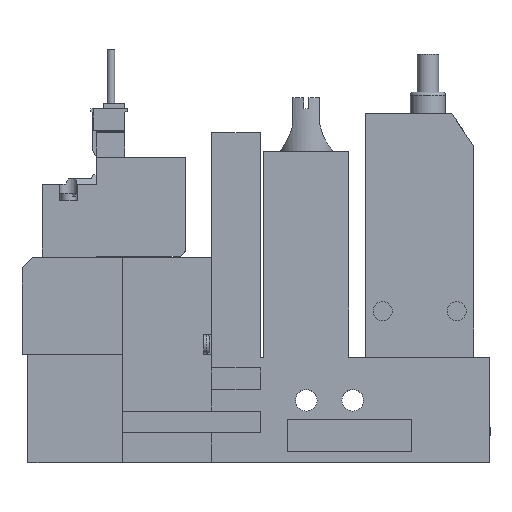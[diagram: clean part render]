
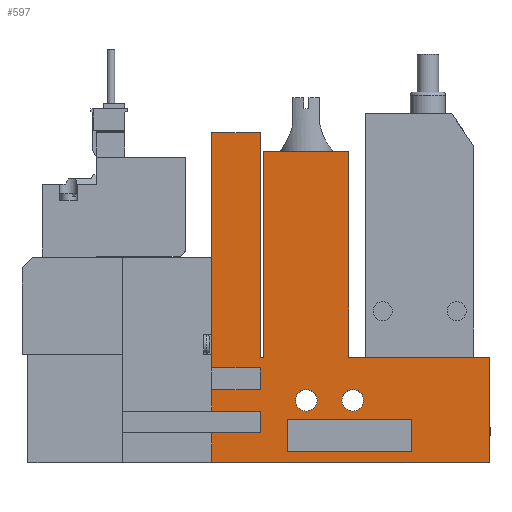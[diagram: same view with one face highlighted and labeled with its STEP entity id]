
A CAD part, top view. The second image highlights one B-rep face of the part: STEP entity #597.
In plain terms, the highlighted planar face has unit normal (0, 0, 1).
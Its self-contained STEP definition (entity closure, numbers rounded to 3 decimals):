
#597=ADVANCED_FACE('',(#1262,#1263,#1264,#1265),#1266,.T.);
#1262=FACE_OUTER_BOUND('',#2035,.T.);
#1263=FACE_BOUND('',#2036,.T.);
#1264=FACE_BOUND('',#2037,.T.);
#1265=FACE_BOUND('',#2038,.T.);
#1266=PLANE('',#2039);
#2035=EDGE_LOOP('',(#4427,#4428,#4429,#4430,#4431,#4432,#4433,#4434,#4435,#4436,#4437,#4438,#4439,#4440,#4441,#4442,#4443,#4444));
#2036=EDGE_LOOP('',(#4445,#4446,#4447,#4448));
#2037=EDGE_LOOP('',(#4449));
#2038=EDGE_LOOP('',(#4450));
#2039=AXIS2_PLACEMENT_3D('',#4451,#4452,#4453);
#4427=ORIENTED_EDGE('',*,*,#5822,.T.);
#4428=ORIENTED_EDGE('',*,*,#5823,.T.);
#4429=ORIENTED_EDGE('',*,*,#5799,.T.);
#4430=ORIENTED_EDGE('',*,*,#5813,.T.);
#4431=ORIENTED_EDGE('',*,*,#5824,.T.);
#4432=ORIENTED_EDGE('',*,*,#5825,.T.);
#4433=ORIENTED_EDGE('',*,*,#5826,.T.);
#4434=ORIENTED_EDGE('',*,*,#5827,.T.);
#4435=ORIENTED_EDGE('',*,*,#5828,.T.);
#4436=ORIENTED_EDGE('',*,*,#5829,.T.);
#4437=ORIENTED_EDGE('',*,*,#5830,.T.);
#4438=ORIENTED_EDGE('',*,*,#5786,.T.);
#4439=ORIENTED_EDGE('',*,*,#5831,.T.);
#4440=ORIENTED_EDGE('',*,*,#5832,.T.);
#4441=ORIENTED_EDGE('',*,*,#5806,.T.);
#4442=ORIENTED_EDGE('',*,*,#5833,.T.);
#4443=ORIENTED_EDGE('',*,*,#5834,.T.);
#4444=ORIENTED_EDGE('',*,*,#5835,.T.);
#4445=ORIENTED_EDGE('',*,*,#5836,.T.);
#4446=ORIENTED_EDGE('',*,*,#5837,.T.);
#4447=ORIENTED_EDGE('',*,*,#5838,.T.);
#4448=ORIENTED_EDGE('',*,*,#5839,.T.);
#4449=ORIENTED_EDGE('',*,*,#5815,.T.);
#4450=ORIENTED_EDGE('',*,*,#5821,.T.);
#4451=CARTESIAN_POINT('',(0.0,0.0,10.0));
#4452=DIRECTION('',(0.0,0.0,1.0));
#4453=DIRECTION('',(1.0,0.0,0.0));
#5786=EDGE_CURVE('',#7171,#7169,#7172,.T.);
#5799=EDGE_CURVE('',#7192,#7194,#7196,.T.);
#5806=EDGE_CURVE('',#7210,#7208,#7211,.T.);
#5813=EDGE_CURVE('',#7194,#7220,#7222,.T.);
#5815=EDGE_CURVE('',#7225,#7225,#7226,.T.);
#5821=EDGE_CURVE('',#7237,#7237,#7238,.T.);
#5822=EDGE_CURVE('',#7239,#7240,#7241,.T.);
#5823=EDGE_CURVE('',#7240,#7192,#7242,.T.);
#5824=EDGE_CURVE('',#7220,#7243,#7244,.T.);
#5825=EDGE_CURVE('',#7243,#7245,#7246,.T.);
#5826=EDGE_CURVE('',#7245,#7247,#7248,.T.);
#5827=EDGE_CURVE('',#7247,#7249,#7250,.T.);
#5828=EDGE_CURVE('',#7249,#7251,#7252,.T.);
#5829=EDGE_CURVE('',#7251,#7253,#7254,.T.);
#5830=EDGE_CURVE('',#7253,#7171,#7255,.T.);
#5831=EDGE_CURVE('',#7169,#7256,#7257,.T.);
#5832=EDGE_CURVE('',#7256,#7210,#7258,.T.);
#5833=EDGE_CURVE('',#7208,#7259,#7260,.T.);
#5834=EDGE_CURVE('',#7259,#7261,#7262,.T.);
#5835=EDGE_CURVE('',#7261,#7239,#7263,.T.);
#5836=EDGE_CURVE('',#7264,#7265,#7266,.T.);
#5837=EDGE_CURVE('',#7265,#7267,#7268,.T.);
#5838=EDGE_CURVE('',#7267,#7269,#7270,.T.);
#5839=EDGE_CURVE('',#7269,#7264,#7271,.T.);
#7169=VERTEX_POINT('',#9353);
#7171=VERTEX_POINT('',#9356);
#7172=LINE('',#9357,#9358);
#7192=VERTEX_POINT('',#9387);
#7194=VERTEX_POINT('',#9390);
#7196=LINE('',#9393,#9394);
#7208=VERTEX_POINT('',#9411);
#7210=VERTEX_POINT('',#9414);
#7211=LINE('',#9415,#9416);
#7220=VERTEX_POINT('',#9430);
#7222=LINE('',#9433,#9434);
#7225=VERTEX_POINT('',#9437);
#7226=CIRCLE('',#9438,2.0);
#7237=VERTEX_POINT('',#9453);
#7238=CIRCLE('',#9454,2.0);
#7239=VERTEX_POINT('',#9455);
#7240=VERTEX_POINT('',#9456);
#7241=LINE('',#9457,#9458);
#7242=LINE('',#9459,#9460);
#7243=VERTEX_POINT('',#9461);
#7244=LINE('',#9462,#9463);
#7245=VERTEX_POINT('',#9464);
#7246=LINE('',#9465,#9466);
#7247=VERTEX_POINT('',#9467);
#7248=LINE('',#9468,#9469);
#7249=VERTEX_POINT('',#9470);
#7250=LINE('',#9471,#9472);
#7251=VERTEX_POINT('',#9473);
#7252=LINE('',#9474,#9475);
#7253=VERTEX_POINT('',#9476);
#7254=LINE('',#9477,#9478);
#7255=LINE('',#9479,#9480);
#7256=VERTEX_POINT('',#9481);
#7257=LINE('',#9482,#9483);
#7258=LINE('',#9484,#9485);
#7259=VERTEX_POINT('',#9486);
#7260=LINE('',#9487,#9488);
#7261=VERTEX_POINT('',#9489);
#7262=LINE('',#9490,#9491);
#7263=LINE('',#9492,#9493);
#7264=VERTEX_POINT('',#9494);
#7265=VERTEX_POINT('',#9495);
#7266=LINE('',#9496,#9497);
#7267=VERTEX_POINT('',#9498);
#7268=LINE('',#9499,#9500);
#7269=VERTEX_POINT('',#9501);
#7270=LINE('',#9502,#9503);
#7271=LINE('',#9504,#9505);
#9353=CARTESIAN_POINT('',(60.45,19.5,10.0));
#9356=CARTESIAN_POINT('',(86.6,19.5,10.0));
#9357=CARTESIAN_POINT('',(86.6,19.5,10.0));
#9358=VECTOR('',#10767,1.0);
#9387=CARTESIAN_POINT('',(44.1,17.5,10.0));
#9390=CARTESIAN_POINT('',(44.1,13.5,10.0));
#9393=CARTESIAN_POINT('',(44.1,0.0,10.0));
#9394=VECTOR('',#10782,1.0);
#9411=CARTESIAN_POINT('',(44.75,19.5,10.0));
#9414=CARTESIAN_POINT('',(44.75,57.5,10.0));
#9415=CARTESIAN_POINT('',(44.75,57.5,10.0));
#9416=VECTOR('',#10789,1.0);
#9430=CARTESIAN_POINT('',(35.1,13.5,10.0));
#9433=CARTESIAN_POINT('',(0.0,13.5,10.0));
#9434=VECTOR('',#10796,1.0);
#9437=CARTESIAN_POINT('',(54.6,11.5,10.0));
#9438=AXIS2_PLACEMENT_3D('',#10800,#10801,#10802);
#9453=CARTESIAN_POINT('',(63.2,11.5,10.0));
#9454=AXIS2_PLACEMENT_3D('',#10810,#10811,#10812);
#9455=CARTESIAN_POINT('',(35.1,61.0,10.0));
#9456=CARTESIAN_POINT('',(35.1,17.5,10.0));
#9457=CARTESIAN_POINT('',(35.1,61.0,10.0));
#9458=VECTOR('',#10813,1.0);
#9459=CARTESIAN_POINT('',(0.0,17.5,10.0));
#9460=VECTOR('',#10814,1.0);
#9461=CARTESIAN_POINT('',(35.1,9.5,10.0));
#9462=CARTESIAN_POINT('',(35.1,0.0,10.0));
#9463=VECTOR('',#10815,1.0);
#9464=CARTESIAN_POINT('',(44.1,9.5,10.0));
#9465=CARTESIAN_POINT('',(0.0,9.5,10.0));
#9466=VECTOR('',#10816,1.0);
#9467=CARTESIAN_POINT('',(44.1,5.5,10.0));
#9468=CARTESIAN_POINT('',(44.1,0.0,10.0));
#9469=VECTOR('',#10817,1.0);
#9470=CARTESIAN_POINT('',(35.1,5.5,10.0));
#9471=CARTESIAN_POINT('',(0.0,5.5,10.0));
#9472=VECTOR('',#10818,1.0);
#9473=CARTESIAN_POINT('',(35.1,0.0,10.0));
#9474=CARTESIAN_POINT('',(35.1,0.0,10.0));
#9475=VECTOR('',#10819,1.0);
#9476=CARTESIAN_POINT('',(86.6,0.0,10.0));
#9477=CARTESIAN_POINT('',(18.6,0.0,10.0));
#9478=VECTOR('',#10820,1.0);
#9479=CARTESIAN_POINT('',(86.6,0.0,10.0));
#9480=VECTOR('',#10821,1.0);
#9481=CARTESIAN_POINT('',(60.45,57.5,10.0));
#9482=CARTESIAN_POINT('',(60.45,19.5,10.0));
#9483=VECTOR('',#10822,1.0);
#9484=CARTESIAN_POINT('',(60.45,57.5,10.0));
#9485=VECTOR('',#10823,1.0);
#9486=CARTESIAN_POINT('',(44.1,19.5,10.0));
#9487=CARTESIAN_POINT('',(44.75,19.5,10.0));
#9488=VECTOR('',#10824,1.0);
#9489=CARTESIAN_POINT('',(44.1,61.0,10.0));
#9490=CARTESIAN_POINT('',(44.1,19.5,10.0));
#9491=VECTOR('',#10825,1.0);
#9492=CARTESIAN_POINT('',(44.1,61.0,10.0));
#9493=VECTOR('',#10826,1.0);
#9494=CARTESIAN_POINT('',(49.1,2.0,10.0));
#9495=CARTESIAN_POINT('',(49.1,8.0,10.0));
#9496=CARTESIAN_POINT('',(49.1,0.0,10.0));
#9497=VECTOR('',#10827,1.0);
#9498=CARTESIAN_POINT('',(72.1,8.0,10.0));
#9499=CARTESIAN_POINT('',(0.0,8.0,10.0));
#9500=VECTOR('',#10828,1.0);
#9501=CARTESIAN_POINT('',(72.1,2.0,10.0));
#9502=CARTESIAN_POINT('',(72.1,0.0,10.0));
#9503=VECTOR('',#10829,1.0);
#9504=CARTESIAN_POINT('',(0.0,2.0,10.0));
#9505=VECTOR('',#10830,1.0);
#10767=DIRECTION('',(-1.0,0.0,0.0));
#10782=DIRECTION('',(0.0,-1.0,0.0));
#10789=DIRECTION('',(0.0,-1.0,0.0));
#10796=DIRECTION('',(-1.0,0.0,0.0));
#10800=CARTESIAN_POINT('',(52.6,11.5,10.0));
#10801=DIRECTION('',(0.0,0.0,-1.0));
#10802=DIRECTION('',(1.0,0.0,0.0));
#10810=CARTESIAN_POINT('',(61.2,11.5,10.0));
#10811=DIRECTION('',(0.0,0.0,-1.0));
#10812=DIRECTION('',(1.0,0.0,0.0));
#10813=DIRECTION('',(0.0,-1.0,0.0));
#10814=DIRECTION('',(1.0,0.0,0.0));
#10815=DIRECTION('',(0.0,-1.0,0.0));
#10816=DIRECTION('',(1.0,0.0,0.0));
#10817=DIRECTION('',(0.0,-1.0,0.0));
#10818=DIRECTION('',(-1.0,0.0,0.0));
#10819=DIRECTION('',(0.0,-1.0,0.0));
#10820=DIRECTION('',(1.0,0.0,0.0));
#10821=DIRECTION('',(0.0,1.0,0.0));
#10822=DIRECTION('',(0.0,1.0,0.0));
#10823=DIRECTION('',(-1.0,0.0,0.0));
#10824=DIRECTION('',(-1.0,0.0,0.0));
#10825=DIRECTION('',(0.0,1.0,0.0));
#10826=DIRECTION('',(-1.0,0.0,0.0));
#10827=DIRECTION('',(0.0,1.0,0.0));
#10828=DIRECTION('',(1.0,0.0,0.0));
#10829=DIRECTION('',(0.0,-1.0,0.0));
#10830=DIRECTION('',(-1.0,0.0,0.0));
